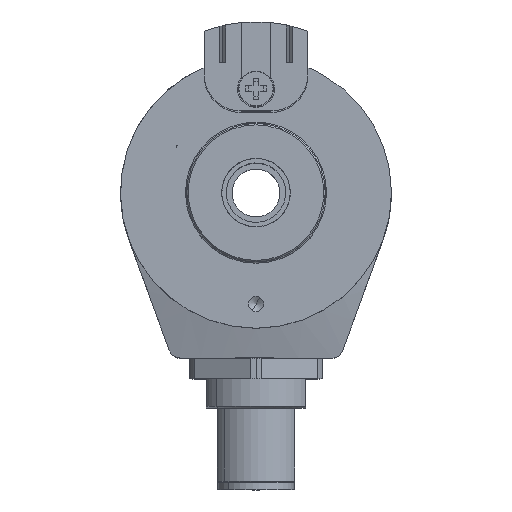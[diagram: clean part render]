
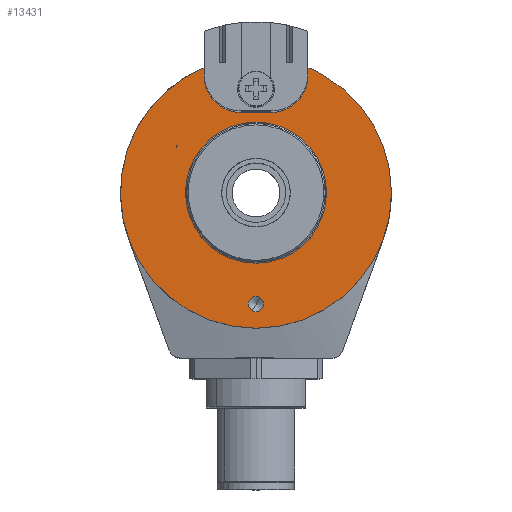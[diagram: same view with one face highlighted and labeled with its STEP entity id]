
A CAD part, top view. The second image highlights one B-rep face of the part: STEP entity #13431.
In plain terms, the highlighted planar face has unit normal (0, 0, 1).
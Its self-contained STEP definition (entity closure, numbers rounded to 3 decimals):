
#7299 = ORIENTED_EDGE ( 'NONE', *, *, #17904, .F. ) ;
#7304 = ORIENTED_EDGE ( 'NONE', *, *, #12920, .F. ) ;
#7315 = ORIENTED_EDGE ( 'NONE', *, *, #13092, .T. ) ;
#7321 = ORIENTED_EDGE ( 'NONE', *, *, #13213, .T. ) ;
#7425 = ORIENTED_EDGE ( 'NONE', *, *, #12921, .F. ) ;
#7435 = ORIENTED_EDGE ( 'NONE', *, *, #12937, .F. ) ;
#7477 = ORIENTED_EDGE ( 'NONE', *, *, #13115, .T. ) ;
#7966 = AXIS2_PLACEMENT_3D ( 'NONE', #11425, #11426, #11427 ) ;
#7973 = AXIS2_PLACEMENT_3D ( 'NONE', #11457, #11458, #11459 ) ;
#9940 = VERTEX_POINT ( 'NONE', #15678 ) ;
#9989 = VERTEX_POINT ( 'NONE', #15727 ) ;
#10024 = VERTEX_POINT ( 'NONE', #15762 ) ;
#11425 = CARTESIAN_POINT ( 'NONE',  ( 0., -15., 0. ) ) ;
#11426 = DIRECTION ( 'NONE',  ( 0., 0., 1. ) ) ;
#11427 = DIRECTION ( 'NONE',  ( 0.5, 0.866, 0. ) ) ;
#11457 = CARTESIAN_POINT ( 'NONE',  ( -2., 15.8, 0. ) ) ;
#11458 = DIRECTION ( 'NONE',  ( 0., 0., -1. ) ) ;
#11459 = DIRECTION ( 'NONE',  ( 0.5, 0.866, 0. ) ) ;
#11624 = CARTESIAN_POINT ( 'NONE',  ( 9.125, 15.805, 0. ) ) ;
#11632 = CARTESIAN_POINT ( 'NONE',  ( -0.512, -15.888, 0. ) ) ;
#11637 = CARTESIAN_POINT ( 'NONE',  ( 4.75, 8.227, 0. ) ) ;
#11638 = CARTESIAN_POINT ( 'NONE',  ( -7., 15.8, 0. ) ) ;
#11644 = CARTESIAN_POINT ( 'NONE',  ( -7., 16.854, 0. ) ) ;
#11656 = CARTESIAN_POINT ( 'NONE',  ( -2., 10.8, 0. ) ) ;
#11662 = CARTESIAN_POINT ( 'NONE',  ( 0.513, -14.112, 0. ) ) ;
#11667 = CARTESIAN_POINT ( 'NONE',  ( 2., 10.8, 0. ) ) ;
#11681 = CARTESIAN_POINT ( 'NONE',  ( -4.75, -8.227, 0. ) ) ;
#11683 = CARTESIAN_POINT ( 'NONE',  ( 7., 15.8, 0. ) ) ;
#12140 = CIRCLE ( 'NONE', #7966, 1.025 ) ;
#12159 = CIRCLE ( 'NONE', #7973, 5. ) ;
#12810 = EDGE_LOOP ( 'NONE', ( #7435, #7425 ) ) ;
#12812 = EDGE_LOOP ( 'NONE', ( #13402, #13433, #13406, #13397, #13451, #13399, #7321, #7477, #7315 ) ) ;
#12860 = EDGE_LOOP ( 'NONE', ( #7304, #7299 ) ) ;
#12920 = EDGE_CURVE ( 'NONE', #25336, #25160, #19457, .T. ) ;
#12921 = EDGE_CURVE ( 'NONE', #25355, #25186, #19458, .T. ) ;
#12937 = EDGE_CURVE ( 'NONE', #25186, #25355, #19475, .T. ) ;
#13080 = EDGE_CURVE ( 'NONE', #25357, #25341, #19664, .T. ) ;
#13092 = EDGE_CURVE ( 'NONE', #25128, #9989, #19679, .T. ) ;
#13115 = EDGE_CURVE ( 'NONE', #10024, #25128, #19713, .T. ) ;
#13129 = EDGE_CURVE ( 'NONE', #25357, #9989, #19728, .T. ) ;
#13184 = EDGE_CURVE ( 'NONE', #25203, #25188, #19806, .T. ) ;
#13189 = EDGE_CURVE ( 'NONE', #25330, #25341, #19813, .T. ) ;
#13213 = EDGE_CURVE ( 'NONE', #25203, #10024, #19851, .T. ) ;
#13229 = EDGE_CURVE ( 'NONE', #25330, #9940, #19869, .T. ) ;
#13397 = ORIENTED_EDGE ( 'NONE', *, *, #13229, .T. ) ;
#13399 = ORIENTED_EDGE ( 'NONE', *, *, #13184, .F. ) ;
#13402 = ORIENTED_EDGE ( 'NONE', *, *, #13129, .F. ) ;
#13406 = ORIENTED_EDGE ( 'NONE', *, *, #13189, .F. ) ;
#13431 = ADVANCED_FACE ( 'NONE', ( #22461, #22462, #22463 ), #21359, .T. ) ;
#13433 = ORIENTED_EDGE ( 'NONE', *, *, #13080, .T. ) ;
#13451 = ORIENTED_EDGE ( 'NONE', *, *, #17917, .T. ) ;
#15678 = CARTESIAN_POINT ( 'NONE',  ( -4.5, 11.47, 0. ) ) ;
#15727 = CARTESIAN_POINT ( 'NONE',  ( 7., 16.854, 0. ) ) ;
#15762 = CARTESIAN_POINT ( 'NONE',  ( -9.125, -15.805, 0. ) ) ;
#15935 = CARTESIAN_POINT ( 'NONE',  ( 0., -15., 0. ) ) ;
#15936 = DIRECTION ( 'NONE',  ( 0., 0., 1. ) ) ;
#15937 = DIRECTION ( 'NONE',  ( 0.5, 0.866, 0. ) ) ;
#15938 = CARTESIAN_POINT ( 'NONE',  ( 0., 0., 0. ) ) ;
#15939 = DIRECTION ( 'NONE',  ( 0., 0., 1. ) ) ;
#15940 = DIRECTION ( 'NONE',  ( 0.5, 0.866, 0. ) ) ;
#16003 = CARTESIAN_POINT ( 'NONE',  ( 0., 0., 0. ) ) ;
#16004 = DIRECTION ( 'NONE',  ( 0., 0., 1. ) ) ;
#16005 = DIRECTION ( 'NONE',  ( 0.5, 0.866, 0. ) ) ;
#17904 = EDGE_CURVE ( 'NONE', #25160, #25336, #12140, .T. ) ;
#17917 = EDGE_CURVE ( 'NONE', #9940, #25188, #12159, .T. ) ;
#17955 = AXIS2_PLACEMENT_3D ( 'NONE', #15935, #15936, #15937 ) ;
#17956 = AXIS2_PLACEMENT_3D ( 'NONE', #15938, #15939, #15940 ) ;
#17969 = AXIS2_PLACEMENT_3D ( 'NONE', #16003, #16004, #16005 ) ;
#18050 = AXIS2_PLACEMENT_3D ( 'NONE', #20420, #20421, #20422 ) ;
#18059 = AXIS2_PLACEMENT_3D ( 'NONE', #20453, #20454, #20455 ) ;
#18072 = AXIS2_PLACEMENT_3D ( 'NONE', #20512, #20513, #20514 ) ;
#19457 = CIRCLE ( 'NONE', #17955, 1.025 ) ;
#19458 = CIRCLE ( 'NONE', #17956, 9.5 ) ;
#19475 = CIRCLE ( 'NONE', #17969, 9.5 ) ;
#19664 = CIRCLE ( 'NONE', #18050, 5. ) ;
#19679 = CIRCLE ( 'NONE', #18059, 18.25 ) ;
#19713 = CIRCLE ( 'NONE', #18072, 18.25 ) ;
#19728 = LINE ( 'NONE', #20551, #19730 ) ;
#19730 = VECTOR ( 'NONE', #20552, 1000. ) ;
#19806 = LINE ( 'NONE', #20728, #19807 ) ;
#19807 = VECTOR ( 'NONE', #20729, 1000. ) ;
#19813 = LINE ( 'NONE', #20740, #19815 ) ;
#19815 = VECTOR ( 'NONE', #20741, 1000. ) ;
#19851 = CIRCLE ( 'NONE', #21683, 18.25 ) ;
#19869 = CIRCLE ( 'NONE', #21693, 5. ) ;
#20420 = CARTESIAN_POINT ( 'NONE',  ( 2., 15.8, 0. ) ) ;
#20421 = DIRECTION ( 'NONE',  ( 0., 0., -1. ) ) ;
#20422 = DIRECTION ( 'NONE',  ( 0.5, 0.866, 0. ) ) ;
#20453 = CARTESIAN_POINT ( 'NONE',  ( 0., 0., 0. ) ) ;
#20454 = DIRECTION ( 'NONE',  ( 0., 0., 1. ) ) ;
#20455 = DIRECTION ( 'NONE',  ( 0.5, 0.866, 0. ) ) ;
#20512 = CARTESIAN_POINT ( 'NONE',  ( 0., 0., 0. ) ) ;
#20513 = DIRECTION ( 'NONE',  ( 0., 0., 1. ) ) ;
#20514 = DIRECTION ( 'NONE',  ( 0.5, 0.866, 0. ) ) ;
#20551 = CARTESIAN_POINT ( 'NONE',  ( 7., 16.854, 0. ) ) ;
#20552 = DIRECTION ( 'NONE',  ( 0., 1., 0. ) ) ;
#20728 = CARTESIAN_POINT ( 'NONE',  ( -7., 16.854, 0. ) ) ;
#20729 = DIRECTION ( 'NONE',  ( 0., -1., 0. ) ) ;
#20740 = CARTESIAN_POINT ( 'NONE',  ( -7., 10.8, 0. ) ) ;
#20741 = DIRECTION ( 'NONE',  ( 1., 0., 0. ) ) ;
#20799 = CARTESIAN_POINT ( 'NONE',  ( 0., 0., 0. ) ) ;
#20800 = DIRECTION ( 'NONE',  ( 0., 0., 1. ) ) ;
#20801 = DIRECTION ( 'NONE',  ( 0.5, 0.866, 0. ) ) ;
#20877 = CARTESIAN_POINT ( 'NONE',  ( -2., 15.8, 0. ) ) ;
#20878 = DIRECTION ( 'NONE',  ( 0., 0., -1. ) ) ;
#20879 = DIRECTION ( 'NONE',  ( 0.5, 0.866, 0. ) ) ;
#21359 = PLANE ( 'NONE',  #21794 ) ;
#21360 = CARTESIAN_POINT ( 'NONE',  ( 0., 0., 0. ) ) ;
#21361 = DIRECTION ( 'NONE',  ( 0., 0., 1. ) ) ;
#21362 = DIRECTION ( 'NONE',  ( 0.5, 0.866, 0. ) ) ;
#21683 = AXIS2_PLACEMENT_3D ( 'NONE', #20799, #20800, #20801 ) ;
#21693 = AXIS2_PLACEMENT_3D ( 'NONE', #20877, #20878, #20879 ) ;
#21794 = AXIS2_PLACEMENT_3D ( 'NONE', #21360, #21361, #21362 ) ;
#22461 = FACE_OUTER_BOUND ( 'NONE', #12812, .T. ) ;
#22462 = FACE_BOUND ( 'NONE', #12860, .T. ) ;
#22463 = FACE_BOUND ( 'NONE', #12810, .T. ) ;
#25128 = VERTEX_POINT ( 'NONE', #11624 ) ;
#25160 = VERTEX_POINT ( 'NONE', #11632 ) ;
#25186 = VERTEX_POINT ( 'NONE', #11637 ) ;
#25188 = VERTEX_POINT ( 'NONE', #11638 ) ;
#25203 = VERTEX_POINT ( 'NONE', #11644 ) ;
#25330 = VERTEX_POINT ( 'NONE', #11656 ) ;
#25336 = VERTEX_POINT ( 'NONE', #11662 ) ;
#25341 = VERTEX_POINT ( 'NONE', #11667 ) ;
#25355 = VERTEX_POINT ( 'NONE', #11681 ) ;
#25357 = VERTEX_POINT ( 'NONE', #11683 ) ;
